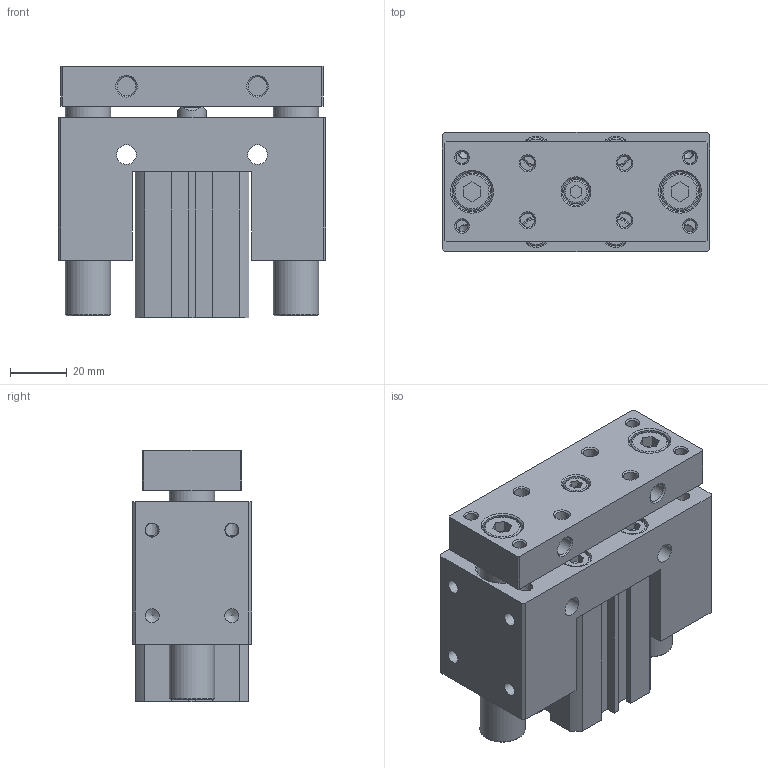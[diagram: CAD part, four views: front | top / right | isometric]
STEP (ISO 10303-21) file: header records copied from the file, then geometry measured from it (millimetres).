
FILE_DESCRIPTION((''),'2;1');
FILE_NAME('I:\3D電子目錄\氣缸\JCB\JCB\JCB25-S\JCB25x20-S.stp','2007-08-21T19:24:05',('Administrator'),(''),'Autodesk Inventor 11','Autodesk Inventor 11','');
FILE_SCHEMA(('AUTOMOTIVE_DESIGN { 1 0 10303 214 1 1 1 1 }'));
Length unit declared in the file: millimetre
Products named in the file (1): JCB25
Bounding box: 94 x 42 x 88.2 mm (x, y, z)
Volume: 244249.3 mm3; surface area: 72694.3 mm2
Topology: 5 solids, 5 shells, 323 faces, 740 edges, 483 vertices
Faces by surface type: plane 172, bspline 61, cylinder 47, cone 35, torus 8
Full cylindrical faces by diameter (mm): 1.5 x2, 4.917 x4, 5.1 x4, 6.647 x2, 8 x8, 8.5 x1, 10 x5, 11 x1, 13 x2, 16 x2, 17 x2, 18 x2, 28 x4, 29.4 x2
Entity records: 8980 total; most frequent: CARTESIAN_POINT 2309, DIRECTION 1332, ORIENTED_EDGE 1160, EDGE_CURVE 580, EDGE_LOOP 544, AXIS2_PLACEMENT_3D 493, VERTEX_POINT 454, VECTOR 346
